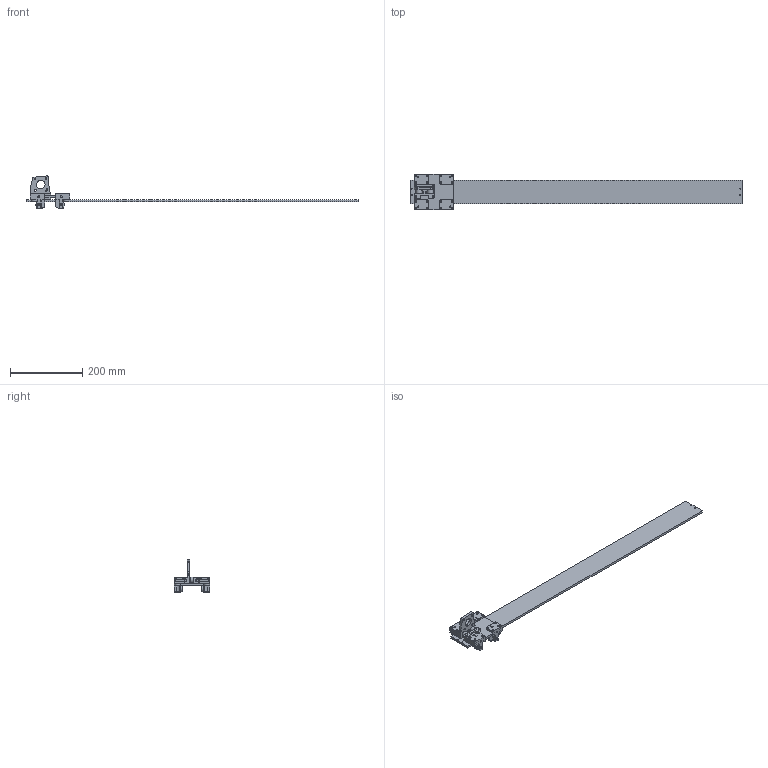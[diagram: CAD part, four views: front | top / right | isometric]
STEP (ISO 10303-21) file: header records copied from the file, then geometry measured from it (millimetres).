
FILE_DESCRIPTION(/* description */ (''),/* implementation_level */ '2;1');
FILE_NAME(/* name */ 'D:/dropbox/CBA/projects/machines/rctgantries/cad/dev/n17/RCTN17-025-01875-ALU v20.step',/* time_stamp */ '2019-01-07T21:14:20-05:00',/* author */ ('jakerobertread@gmail.com'),/* organization */ (''),/* preprocessor_version */ 'ST-DEVELOPER v17.2',/* originating_system */ 'Autodesk Translation Framework v7.6.0.251',/* authorisation */ '');
FILE_SCHEMA (('AUTOMOTIVE_DESIGN { 1 0 10303 214 3 1 1 }'));
Length unit declared in the file: millimetre
Products named in the file (1): RCTN17-025-01875-ALU
Bounding box: 918.15 x 98.8 x 88.54 mm (x, y, z)
Volume: 529966.4 mm3; surface area: 211199.4 mm2
Topology: 22 solids, 22 shells, 600 faces, 1604 edges, 1048 vertices
Faces by surface type: cylinder 311, plane 230, cone 24, bspline 23, torus 12
Full cylindrical faces by diameter (mm): 2.5 x4, 3.25 x44, 3.3 x8, 4.25 x4, 5.2 x19, 5.8 x14, 9.1 x2, 16 x14
Entity records: 20451 total; most frequent: CARTESIAN_POINT 4841, DIRECTION 3235, ORIENTED_EDGE 3208, EDGE_CURVE 1604, AXIS2_PLACEMENT_3D 1196, VERTEX_POINT 1048, LINE 843, VECTOR 843
